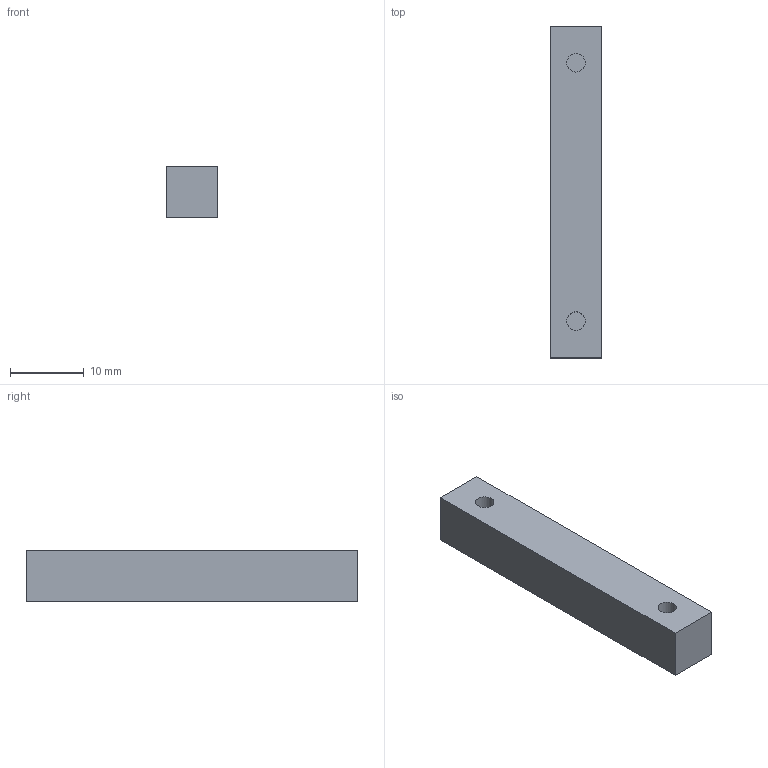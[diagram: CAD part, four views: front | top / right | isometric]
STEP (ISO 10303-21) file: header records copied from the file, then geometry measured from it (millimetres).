
FILE_DESCRIPTION(('FreeCAD Model'),'2;1');
FILE_NAME('E:/CAD Designs/Garmin/Final/CAD files/STEP/wheel_spacer.step' ,'2021-02-27T13:02:05',('Author'),(''), 'Open CASCADE STEP processor 7.3','FreeCAD','Unknown');
FILE_SCHEMA(('AUTOMOTIVE_DESIGN { 1 0 10303 214 1 1 1 1 }'));
Length unit declared in the file: millimetre
Products named in the file (1): Body
Bounding box: 7 x 45 x 7 mm (x, y, z)
Volume: 2155.9 mm3; surface area: 1436.5 mm2
Topology: 1 solids, 1 shells, 10 faces, 18 edges, 12 vertices
Faces by surface type: plane 8, cylinder 2
Full cylindrical faces by diameter (mm): 2.5 x2
Entity records: 501 total; most frequent: DIRECTION 80, CARTESIAN_POINT 77, LINE 46, VECTOR 46, ORIENTED_EDGE 36, PCURVE 36, DEFINITIONAL_REPRESENTATION 36, EDGE_CURVE 18
